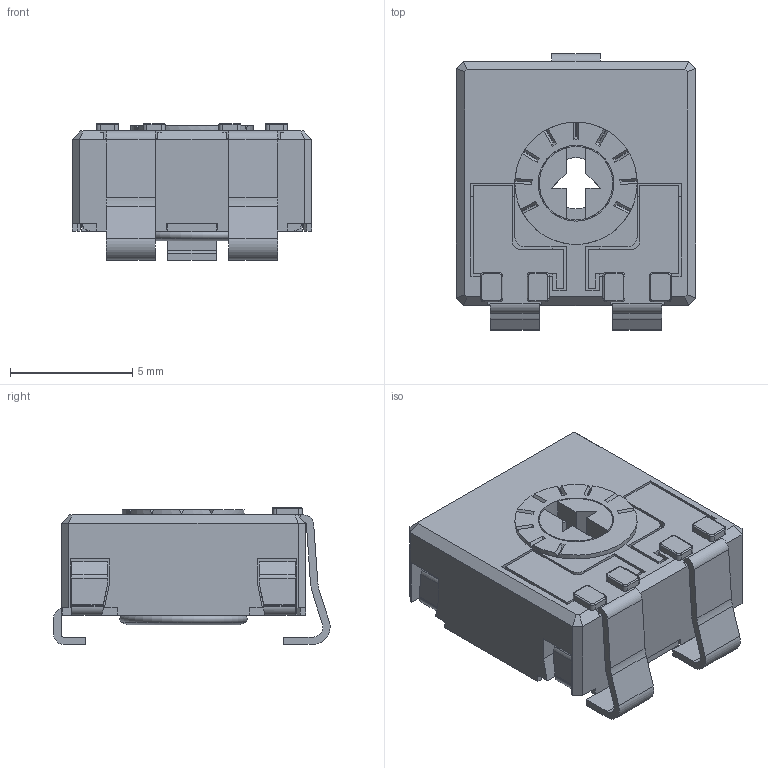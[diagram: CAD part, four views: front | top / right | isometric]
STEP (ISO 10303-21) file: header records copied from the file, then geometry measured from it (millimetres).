
FILE_DESCRIPTION(/* description */ (''),/* implementation_level */ '2;1');
FILE_NAME(/* name */ 'COMCA9PVSMD.stp',/* time_stamp */ '2026-03-30T17:16:14+02:00',/* author */ ('CEM'),/* organization */ (''),/* preprocessor_version */ 'ST-DEVELOPER v20.1',/* originating_system */ 'Autodesk Inventor 2026',/* authorisation */ '');
FILE_SCHEMA (('AUTOMOTIVE_DESIGN { 1 0 10303 214 3 1 1 }'));
Length unit declared in the file: millimetre
Products named in the file (1): COMCA9PVSMD
Bounding box: 9.8 x 11.3 x 5.6 mm (x, y, z)
Volume: 249.6 mm3; surface area: 844.5 mm2
Topology: 2 solids, 2 shells, 512 faces, 1474 edges, 938 vertices
Faces by surface type: plane 395, cylinder 82, torus 19, cone 16
Full cylindrical faces by diameter (mm): 3 x1, 3.1 x1, 4 x1, 4.8 x1, 5 x1
Entity records: 16840 total; most frequent: CARTESIAN_POINT 2977, ORIENTED_EDGE 2948, DIRECTION 2753, EDGE_CURVE 1474, LINE 1169, VECTOR 1169, VERTEX_POINT 938, AXIS2_PLACEMENT_3D 792
